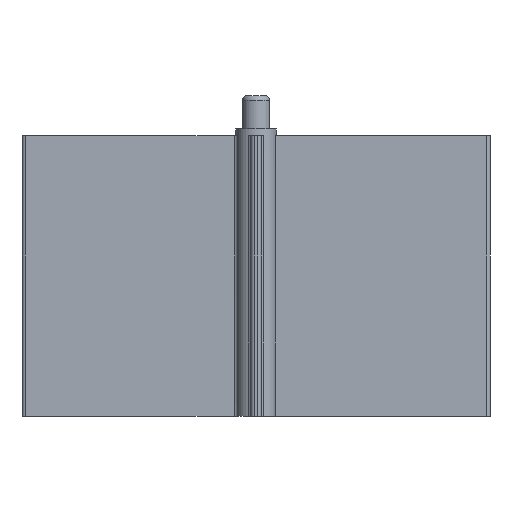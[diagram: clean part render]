
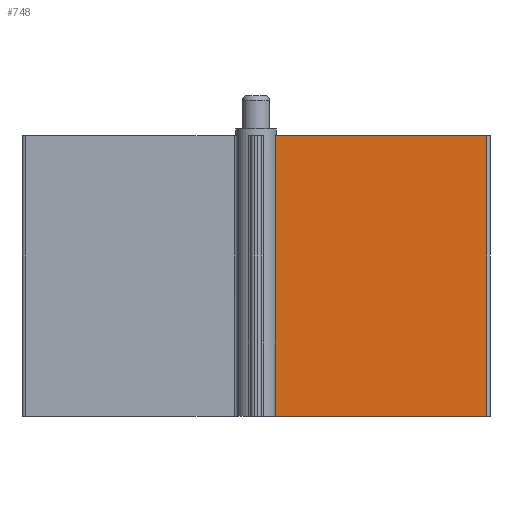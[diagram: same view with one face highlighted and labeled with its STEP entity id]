
A CAD part, front view. The second image highlights one B-rep face of the part: STEP entity #748.
In plain terms, the highlighted planar face has unit normal (0, -1, 0).
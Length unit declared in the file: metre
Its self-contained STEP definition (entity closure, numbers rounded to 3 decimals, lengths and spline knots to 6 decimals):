
#33=B_SPLINE_CURVE_WITH_KNOTS('',3,(#1257,#1258,#1259,#1260),
 .UNSPECIFIED.,.F.,.F.,(4,4),(0.,0.000072),.UNSPECIFIED.);
#152=ORIENTED_EDGE('',*,*,#372,.T.);
#153=ORIENTED_EDGE('',*,*,#373,.T.);
#154=ORIENTED_EDGE('',*,*,#314,.F.);
#155=ORIENTED_EDGE('',*,*,#374,.T.);
#156=ORIENTED_EDGE('',*,*,#350,.T.);
#314=EDGE_CURVE('',#426,#427,#503,.T.);
#350=EDGE_CURVE('',#463,#462,#517,.T.);
#372=EDGE_CURVE('',#462,#480,#533,.T.);
#373=EDGE_CURVE('',#480,#427,#33,.T.);
#374=EDGE_CURVE('',#426,#463,#534,.F.);
#426=VERTEX_POINT('',#1134);
#427=VERTEX_POINT('',#1135);
#462=VERTEX_POINT('',#1209);
#463=VERTEX_POINT('',#1211);
#480=VERTEX_POINT('',#1256);
#503=LINE('',#1133,#558);
#517=LINE('',#1210,#572);
#533=LINE('',#1255,#588);
#534=LINE('',#1261,#589);
#558=VECTOR('',#892,1.);
#572=VECTOR('',#958,1.);
#588=VECTOR('',#998,1.);
#589=VECTOR('',#999,1.);
#623=EDGE_LOOP('',(#152,#153,#154,#155,#156));
#674=FACE_BOUND('',#623,.T.);
#725=PLANE('',#833);
#748=ADVANCED_FACE('',(#674),#725,.T.);
#833=AXIS2_PLACEMENT_3D('',#1254,#996,#997);
#892=DIRECTION('',(-1.,0.,0.));
#958=DIRECTION('',(-1.,0.,0.));
#996=DIRECTION('',(0.,-1.,0.));
#997=DIRECTION('',(1.,0.,0.));
#998=DIRECTION('',(0.,0.,-1.));
#999=DIRECTION('',(0.,0.,-1.));
#1133=CARTESIAN_POINT('',(0.018952,-0.00075,-0.021));
#1134=CARTESIAN_POINT('',(0.0345,-0.00075,-0.021));
#1135=CARTESIAN_POINT('',(0.002956,-0.00075,-0.021));
#1209=CARTESIAN_POINT('',(0.002905,-0.00075,0.021));
#1210=CARTESIAN_POINT('',(0.018952,-0.00075,0.021));
#1211=CARTESIAN_POINT('',(0.0345,-0.00075,0.021));
#1254=CARTESIAN_POINT('',(0.018952,-0.00075,0.021));
#1255=CARTESIAN_POINT('',(0.002905,-0.00075,0.021));
#1256=CARTESIAN_POINT('',(0.002905,-0.00075,-0.02095));
#1257=CARTESIAN_POINT('',(0.002905,-0.00075,-0.02095));
#1258=CARTESIAN_POINT('',(0.002922,-0.00075,-0.020967));
#1259=CARTESIAN_POINT('',(0.002939,-0.00075,-0.020983));
#1260=CARTESIAN_POINT('',(0.002956,-0.00075,-0.021));
#1261=CARTESIAN_POINT('',(0.0345,-0.00075,0.021));
